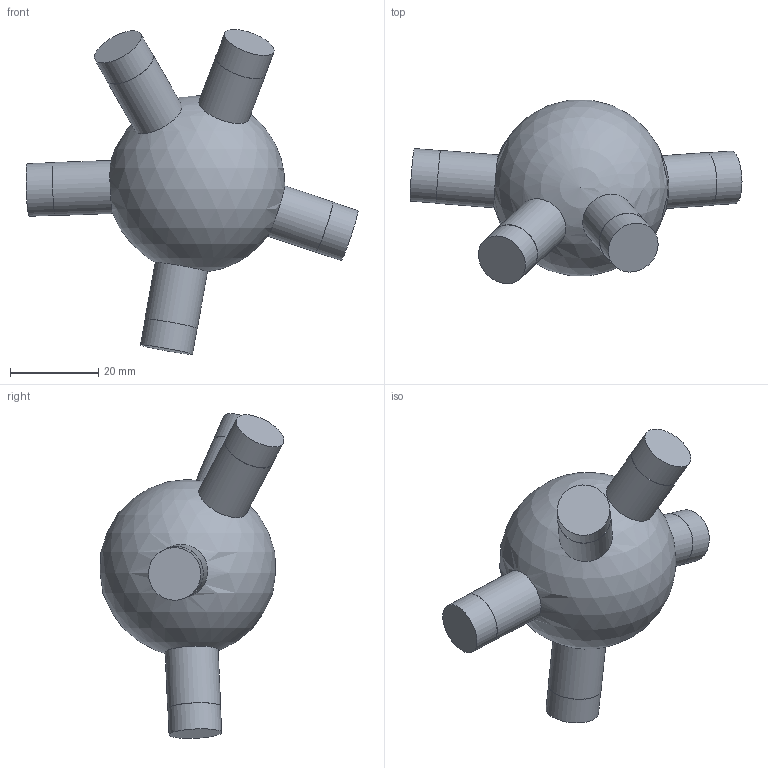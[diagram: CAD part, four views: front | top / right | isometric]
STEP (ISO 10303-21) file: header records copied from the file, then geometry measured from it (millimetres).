
FILE_DESCRIPTION(('Open CASCADE Model'),'2;1');
FILE_NAME('Open CASCADE Shape Model','2026-10-21T12:47:57',('Author'),( 'Open CASCADE'),'Open CASCADE STEP processor 7.9','Open CASCADE 7.9' ,'Unknown');
FILE_SCHEMA(('AUTOMOTIVE_DESIGN { 1 0 10303 214 1 1 1 1 }'));
Length unit declared in the file: millimetre
Products named in the file (1): Open CASCADE STEP translator 7.9 70
Bounding box: 75.05 x 41.57 x 73.44 mm (x, y, z)
Volume: 43760.7 mm3; surface area: 8526.9 mm2
Topology: 1 solids, 1 shells, 21 faces, 36 edges, 24 vertices
Faces by surface type: cylinder 10, plane 10, sphere 1
Full cylindrical faces by diameter (mm): 11.9 x5, 12 x5
Entity records: 1335 total; most frequent: CARTESIAN_POINT 527, DIRECTION 166, ORIENTED_EDGE 70, PCURVE 70, DEFINITIONAL_REPRESENTATION 70, LINE 57, VECTOR 57, AXIS2_PLACEMENT_3D 47
